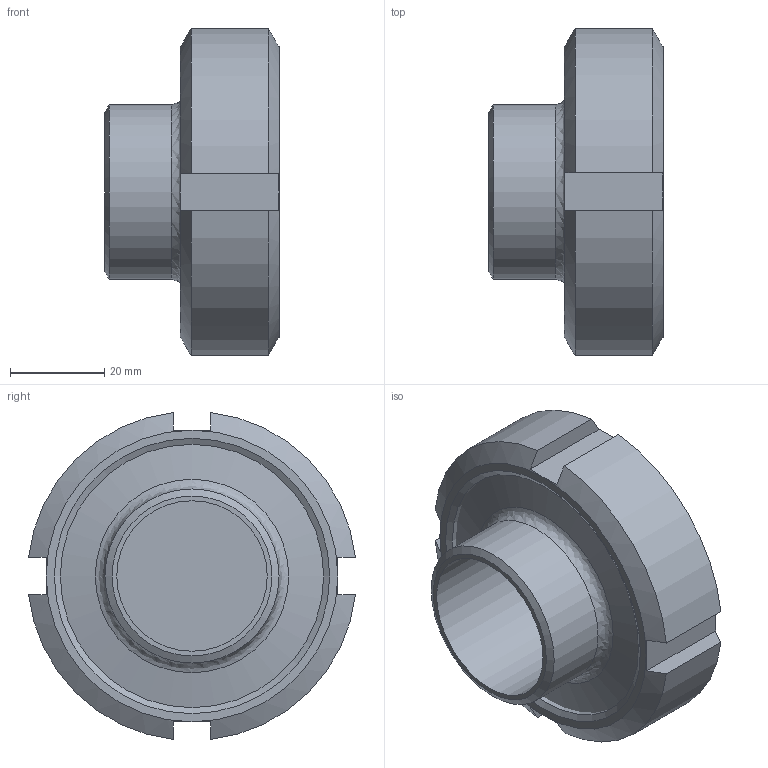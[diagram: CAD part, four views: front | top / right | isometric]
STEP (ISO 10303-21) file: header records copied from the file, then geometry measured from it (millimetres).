
FILE_DESCRIPTION((''),'2;1');
FILE_NAME('V:\Výkresy (KATALOG + NÁVODY)\3D-pdf\5xxxx\step\51510\5151-032 Maticové průhledítko.stp','2018-08-28T10:57:21',('fonai'),(''),'Autodesk Inventor 2010','Autodesk Inventor 2010','');
FILE_SCHEMA(('AUTOMOTIVE_DESIGN { 1 0 10303 214 1 1 1 1 }'));
Length unit declared in the file: millimetre
Products named in the file (6): 5151-032 Maticové průhledítko; 51512-ZH-032; 20040-032-Těsnění; 51520-032; 51511-032-Vložka pro maticové průhledítko; 20030-032-Z-Matice převlečná se zápichem
Assembly tree (5 placements, depth 2):
  5151-032 Maticové průhledítko
    51512-ZH-032
    20040-032-Těsnění
    51520-032
    51511-032-Vložka pro maticové průhledítko
    20030-032-Z-Matice převlečná se zápichem
Bounding box: 37 x 69.54 x 69.54 mm (x, y, z)
Volume: 67951.6 mm3; surface area: 36247.8 mm2
Topology: 5 solids, 5 shells, 60 faces, 120 edges, 74 vertices
Faces by surface type: plane 26, cylinder 19, cone 13, bspline 1, torus 1
Full cylindrical faces by diameter (mm): 32 x2, 36 x2, 37 x1, 41.5 x1, 42 x1, 45.8 x1, 46 x1, 50 x1, 50.5 x1, 51 x1, 56 x1, 58 x2
Entity records: 1657 total; most frequent: CARTESIAN_POINT 351, DIRECTION 256, ORIENTED_EDGE 196, AXIS2_PLACEMENT_3D 120, EDGE_CURVE 98, EDGE_LOOP 94, VERTEX_POINT 74, FACE_OUTER_BOUND 60
